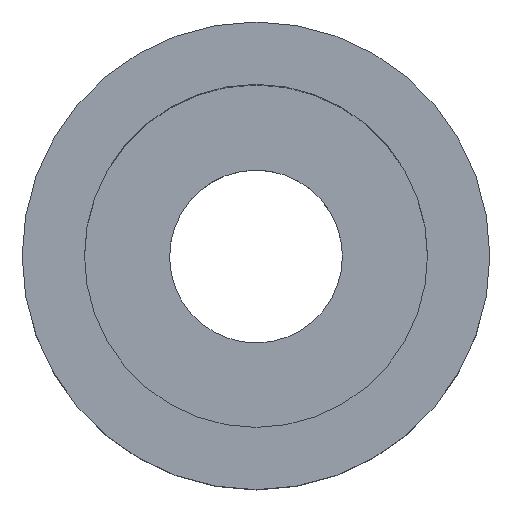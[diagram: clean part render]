
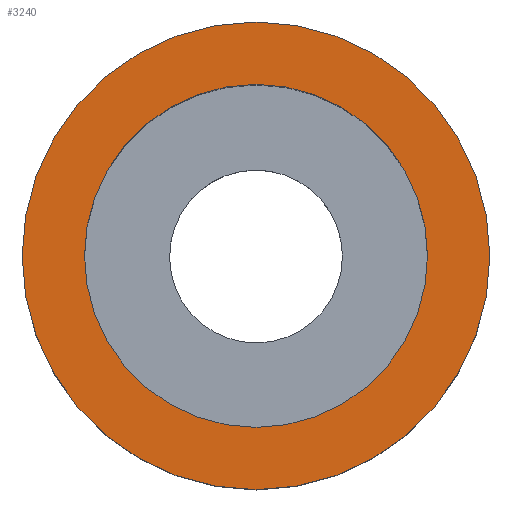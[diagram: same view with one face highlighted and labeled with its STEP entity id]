
A CAD part, top view. The second image highlights one B-rep face of the part: STEP entity #3240.
In plain terms, the highlighted planar face has unit normal (0, 0, 1) as drawn and (0, -1, 0) by its records, which use the part's own axes.
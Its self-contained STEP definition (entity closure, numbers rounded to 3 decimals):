
#1500=CARTESIAN_POINT('',(24.325,-36.475,1.5));
#1510=VERTEX_POINT('',#1500);
#1690=CARTESIAN_POINT('',(-3.475,-36.475,
1.5));
#1700=VERTEX_POINT('',#1690);
#1730=CARTESIAN_POINT('',(10.425,-36.475,1.5));
#1740=DIRECTION('',(0.,1.,0.));
#1750=DIRECTION('',(1.,0.,0.));
#1760=AXIS2_PLACEMENT_3D('',#1730,#1740,#1750);
#1770=CIRCLE('',#1760,13.9);
#1780=EDGE_CURVE('',#1700,#1510,#1770,.T.);
#2340=CARTESIAN_POINT('',(29.375,-36.475,1.5));
#2350=VERTEX_POINT('',#2340);
#2470=CARTESIAN_POINT('',(-8.525,-36.475,
1.5));
#2480=VERTEX_POINT('',#2470);
#2510=CARTESIAN_POINT('',(10.425,-36.475,1.5));
#2520=DIRECTION('',(0.,1.,0.));
#2530=DIRECTION('',(-1.,0.,0.));
#2540=AXIS2_PLACEMENT_3D('',#2510,#2520,#2530);
#2550=CIRCLE('',#2540,18.95);
#2560=EDGE_CURVE('',#2350,#2480,#2550,.T.);
#3090=CARTESIAN_POINT('',(28.1,-36.475,1.5));
#3100=DIRECTION('',(0.,-1.,0.));
#3110=DIRECTION('',(1.,0.,0.));
#3120=AXIS2_PLACEMENT_3D('',#3090,#3100,#3110);
#3130=PLANE('',#3120);
#3140=EDGE_CURVE('',#1510,#1700,#1770,.T.);
#3150=ORIENTED_EDGE('',*,*,#3140,.T.);
#3160=ORIENTED_EDGE('',*,*,#1780,.T.);
#3170=EDGE_LOOP('',(#3160,#3150));
#3180=FACE_BOUND('',#3170,.T.);
#3190=EDGE_CURVE('',#2480,#2350,#2550,.T.);
#3200=ORIENTED_EDGE('',*,*,#3190,.F.);
#3210=ORIENTED_EDGE('',*,*,#2560,.F.);
#3220=EDGE_LOOP('',(#3210,#3200));
#3230=FACE_OUTER_BOUND('',#3220,.T.);
#3240=ADVANCED_FACE('',(#3180,#3230),#3130,.T.);
